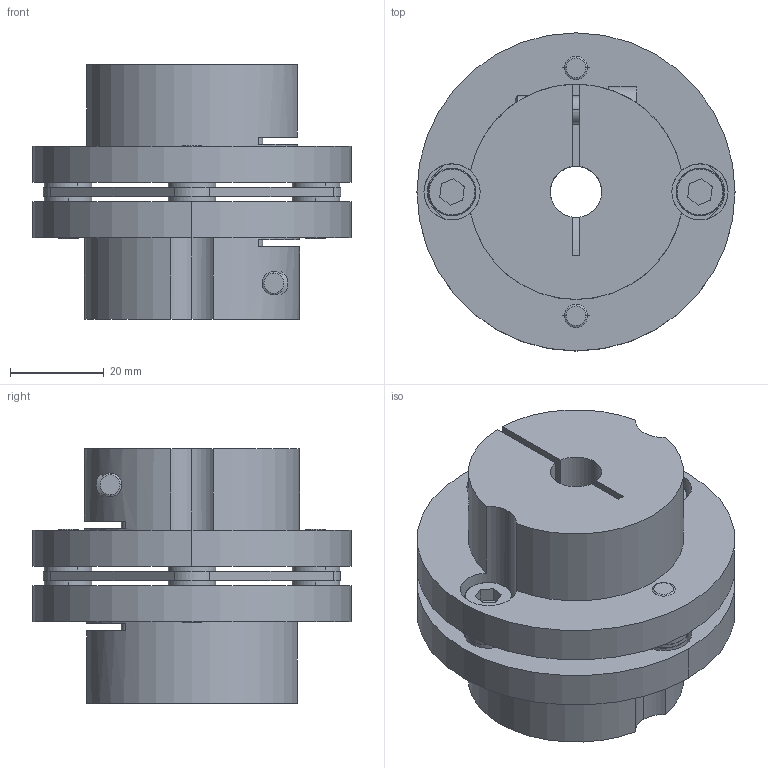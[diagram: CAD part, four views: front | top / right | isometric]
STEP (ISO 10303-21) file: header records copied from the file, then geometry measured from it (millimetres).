
FILE_DESCRIPTION (( 'STEP AP214' ), '1' );
FILE_NAME ('LC-A-060SA-11B-11B.STEP', '2019-09-12T07:21:30', ( 'admin' ), ( 'Microsoft' ), 'SwSTEP 2.0', 'SolidWorks 2016', '' );
FILE_SCHEMA (( 'AUTOMOTIVE_DESIGN' ));
Length unit declared in the file: millimetre
Products named in the file (1): LC-A-060SA-11B-11B
Bounding box: 68 x 68 x 54.5 mm (x, y, z)
Volume: 106658.3 mm3; surface area: 38406.7 mm2
Topology: 17 solids, 17 shells, 273 faces, 651 edges, 422 vertices
Faces by surface type: cylinder 129, plane 108, torus 24, cone 12
Entity records: 11520 total; most frequent: CARTESIAN_POINT 1591, DIRECTION 1521, ORIENTED_EDGE 1302, EDGE_CURVE 651, AXIS2_PLACEMENT_3D 608, VERTEX_POINT 422, EDGE_LOOP 337, CIRCLE 334
